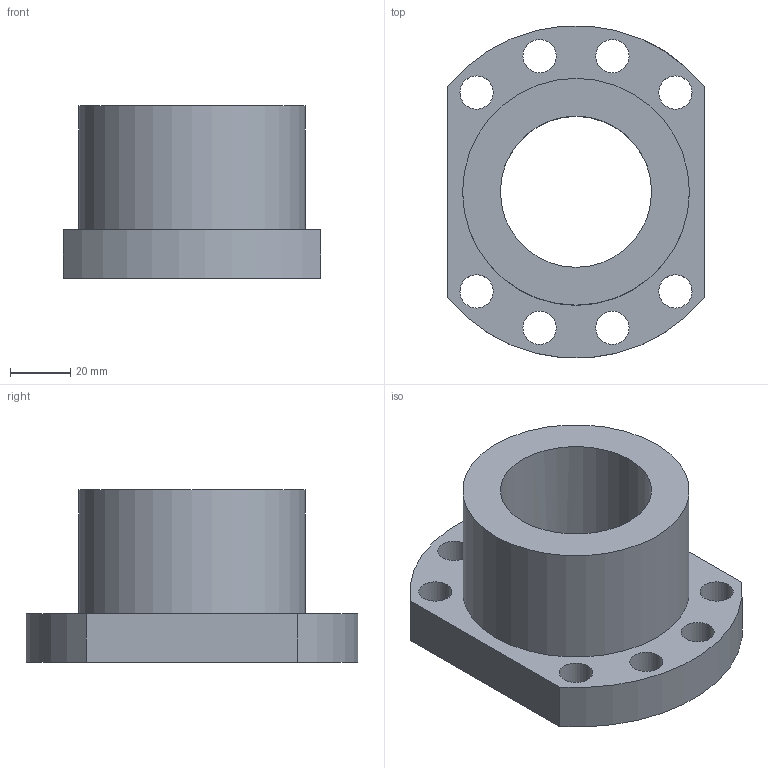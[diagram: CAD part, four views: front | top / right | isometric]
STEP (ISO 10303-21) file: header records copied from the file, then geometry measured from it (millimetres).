
FILE_DESCRIPTION(/* description */ (''),/* implementation_level */ '2;1');
FILE_NAME(/* name */ '50-5T4',/* time_stamp */ '2007-05-17T17:55:37+08:00',/* author */ (''),/* organization */ (''),/* preprocessor_version */ 'ST-DEVELOPER v9',/* originating_system */ 'UGS - NX 4.0',/* authorisation */ '');
FILE_SCHEMA (('CONFIG_CONTROL_DESIGN'));
Length unit declared in the file: millimetre
Products named in the file (1): 50-5T4
Bounding box: 85 x 109.65 x 57 mm (x, y, z)
Volume: 189033.9 mm3; surface area: 40099.7 mm2
Topology: 1 solids, 1 shells, 20 faces, 48 edges, 32 vertices
Faces by surface type: cylinder 14, plane 6
Full cylindrical faces by diameter (mm): 6 x1, 8 x1, 11 x8, 50 x1, 75 x1
Entity records: 774 total; most frequent: CARTESIAN_POINT 203, DIRECTION 102, ORIENTED_EDGE 72, EDGE_LOOP 54, AXIS2_PLACEMENT_3D 47, FACE_BOUND 46, EDGE_CURVE 36, VERTEX_POINT 32
